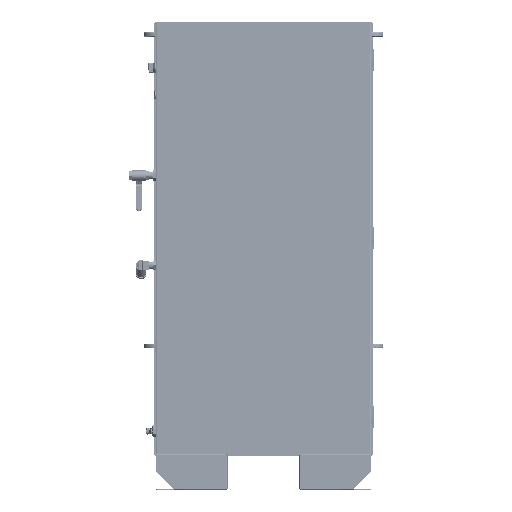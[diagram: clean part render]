
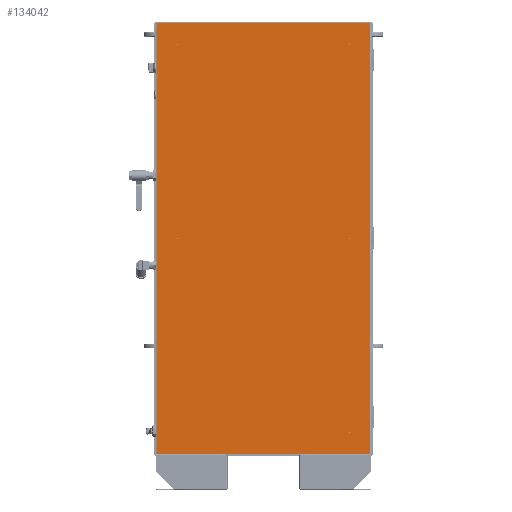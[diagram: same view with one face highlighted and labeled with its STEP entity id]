
A CAD part, left-side view. The second image highlights one B-rep face of the part: STEP entity #134042.
In plain terms, the highlighted planar face has unit normal (-1, 0, 0).
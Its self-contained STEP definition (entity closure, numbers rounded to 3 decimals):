
#7985=FACE_BOUND('',#16231,.T.);
#7986=FACE_BOUND('',#16232,.T.);
#7987=FACE_BOUND('',#16233,.T.);
#7988=FACE_BOUND('',#16234,.T.);
#7989=FACE_BOUND('',#16235,.T.);
#7990=FACE_BOUND('',#16236,.T.);
#9232=FACE_OUTER_BOUND('',#16230,.T.);
#16230=EDGE_LOOP('',(#88415,#88416,#88417,#88418));
#16231=EDGE_LOOP('',(#88419));
#16232=EDGE_LOOP('',(#88420));
#16233=EDGE_LOOP('',(#88421));
#16234=EDGE_LOOP('',(#88422));
#16235=EDGE_LOOP('',(#88423));
#16236=EDGE_LOOP('',(#88424));
#23826=CIRCLE('',#141272,0.045);
#23828=CIRCLE('',#141275,0.045);
#23902=CIRCLE('',#141392,0.045);
#23904=CIRCLE('',#141395,0.045);
#23906=CIRCLE('',#141398,0.045);
#23908=CIRCLE('',#141401,0.045);
#28425=LINE('',#189038,#40499);
#28429=LINE('',#189056,#40503);
#28526=LINE('',#189329,#40600);
#28557=LINE('',#189434,#40631);
#40499=VECTOR('',#152994,39.37);
#40503=VECTOR('',#153010,39.37);
#40600=VECTOR('',#153199,39.37);
#40631=VECTOR('',#153318,39.37);
#52617=VERTEX_POINT('',#188901);
#52619=VERTEX_POINT('',#188907);
#52665=VERTEX_POINT('',#189036);
#52666=VERTEX_POINT('',#189037);
#52673=VERTEX_POINT('',#189054);
#52674=VERTEX_POINT('',#189055);
#52821=VERTEX_POINT('',#189396);
#52823=VERTEX_POINT('',#189402);
#52825=VERTEX_POINT('',#189408);
#52827=VERTEX_POINT('',#189414);
#66760=EDGE_CURVE('',#52617,#52617,#23826,.T.);
#66763=EDGE_CURVE('',#52619,#52619,#23828,.T.);
#66826=EDGE_CURVE('',#52665,#52666,#28425,.T.);
#66834=EDGE_CURVE('',#52673,#52674,#28429,.T.);
#66973=EDGE_CURVE('',#52665,#52674,#28526,.T.);
#67007=EDGE_CURVE('',#52821,#52821,#23902,.T.);
#67010=EDGE_CURVE('',#52823,#52823,#23904,.T.);
#67013=EDGE_CURVE('',#52825,#52825,#23906,.T.);
#67016=EDGE_CURVE('',#52827,#52827,#23908,.T.);
#67026=EDGE_CURVE('',#52673,#52666,#28557,.T.);
#88415=ORIENTED_EDGE('',*,*,#66973,.F.);
#88416=ORIENTED_EDGE('',*,*,#66826,.T.);
#88417=ORIENTED_EDGE('',*,*,#67026,.F.);
#88418=ORIENTED_EDGE('',*,*,#66834,.T.);
#88419=ORIENTED_EDGE('',*,*,#66763,.T.);
#88420=ORIENTED_EDGE('',*,*,#67007,.T.);
#88421=ORIENTED_EDGE('',*,*,#67010,.T.);
#88422=ORIENTED_EDGE('',*,*,#67013,.T.);
#88423=ORIENTED_EDGE('',*,*,#66760,.T.);
#88424=ORIENTED_EDGE('',*,*,#67016,.T.);
#124629=PLANE('',#141410);
#134042=ADVANCED_FACE('',(#9232,#7985,#7986,#7987,#7988,#7989,#7990),#124629,
 .F.);
#141272=AXIS2_PLACEMENT_3D('',#188902,#152864,#152865);
#141275=AXIS2_PLACEMENT_3D('',#188908,#152871,#152872);
#141392=AXIS2_PLACEMENT_3D('',#189397,#153275,#153276);
#141395=AXIS2_PLACEMENT_3D('',#189403,#153282,#153283);
#141398=AXIS2_PLACEMENT_3D('',#189409,#153289,#153290);
#141401=AXIS2_PLACEMENT_3D('',#189415,#153296,#153297);
#141410=AXIS2_PLACEMENT_3D('',#189433,#153316,#153317);
#152864=DIRECTION('center_axis',(1.,0.,0.));
#152865=DIRECTION('ref_axis',(0.,1.,0.));
#152871=DIRECTION('center_axis',(1.,0.,0.));
#152872=DIRECTION('ref_axis',(0.,1.,0.));
#152994=DIRECTION('',(0.,0.,-1.));
#153010=DIRECTION('',(0.,0.,1.));
#153199=DIRECTION('',(0.,-1.,0.));
#153275=DIRECTION('center_axis',(1.,0.,0.));
#153276=DIRECTION('ref_axis',(0.,1.,0.));
#153282=DIRECTION('center_axis',(1.,0.,0.));
#153283=DIRECTION('ref_axis',(0.,1.,0.));
#153289=DIRECTION('center_axis',(1.,0.,0.));
#153290=DIRECTION('ref_axis',(0.,1.,0.));
#153296=DIRECTION('center_axis',(1.,0.,0.));
#153297=DIRECTION('ref_axis',(0.,1.,0.));
#153316=DIRECTION('center_axis',(1.,0.,0.));
#153317=DIRECTION('ref_axis',(0.,1.,0.));
#153318=DIRECTION('',(0.,1.,0.));
#188901=CARTESIAN_POINT('',(0.,21.58,6.437));
#188902=CARTESIAN_POINT('Origin',(0.,21.625,6.437));
#188907=CARTESIAN_POINT('',(0.,2.33,49.687));
#188908=CARTESIAN_POINT('Origin',(0.,2.375,
49.687));
#189036=CARTESIAN_POINT('',(0.,23.887,52.062));
#189037=CARTESIAN_POINT('',(0.,23.887,4.062));
#189038=CARTESIAN_POINT('',(0.,23.887,52.062));
#189054=CARTESIAN_POINT('',(0.,0.113,4.062));
#189055=CARTESIAN_POINT('',(0.,0.113,52.062));
#189056=CARTESIAN_POINT('',(0.,0.113,4.062));
#189329=CARTESIAN_POINT('',(0.,24.,52.062));
#189396=CARTESIAN_POINT('',(0.,2.33,28.062));
#189397=CARTESIAN_POINT('Origin',(0.,2.375,28.062));
#189402=CARTESIAN_POINT('',(0.,21.58,49.687));
#189403=CARTESIAN_POINT('Origin',(0.,21.625,49.687));
#189408=CARTESIAN_POINT('',(0.,21.58,28.062));
#189409=CARTESIAN_POINT('Origin',(0.,21.625,28.062));
#189414=CARTESIAN_POINT('',(0.,2.33,6.437));
#189415=CARTESIAN_POINT('Origin',(0.,2.375,
6.437));
#189433=CARTESIAN_POINT('Origin',(0.,0.,
4.062));
#189434=CARTESIAN_POINT('',(0.,0.,
4.062));
